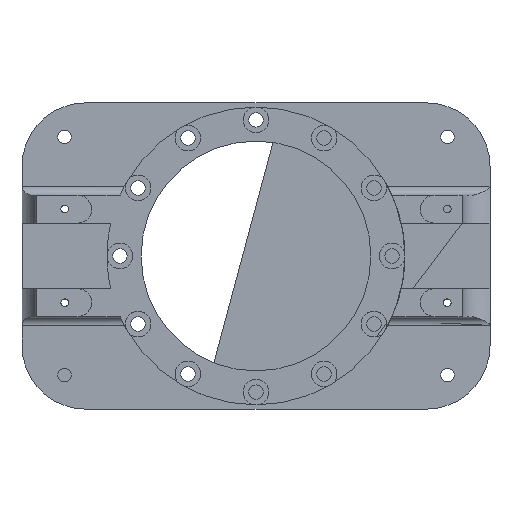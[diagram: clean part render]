
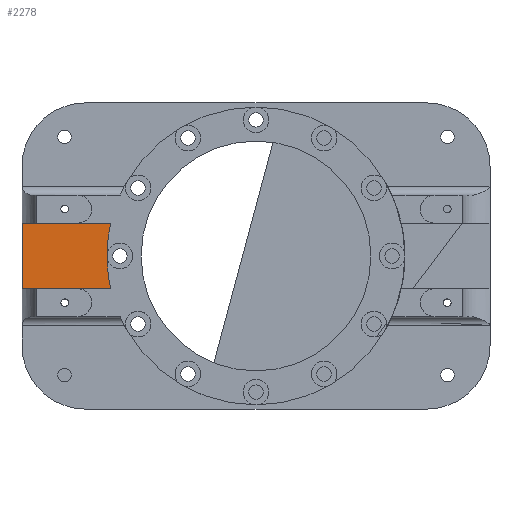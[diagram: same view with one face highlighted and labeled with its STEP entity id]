
A CAD part, top view. The second image highlights one B-rep face of the part: STEP entity #2278.
In plain terms, the highlighted planar face has unit normal (0, 0, 1).
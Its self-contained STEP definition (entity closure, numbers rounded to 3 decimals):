
#81=PLANE('',#2472);
#141=FACE_OUTER_BOUND('',#269,.T.);
#269=EDGE_LOOP('',(#1674,#1675,#1676,#1677,#1678));
#460=CIRCLE('',#2473,35.);
#461=CIRCLE('',#2474,35.);
#617=LINE('',#3624,#786);
#629=LINE('',#3648,#798);
#664=LINE('',#3866,#833);
#786=VECTOR('',#2833,10.);
#798=VECTOR('',#2851,10.);
#833=VECTOR('',#2980,10.);
#921=VERTEX_POINT('',#3466);
#988=VERTEX_POINT('',#3621);
#989=VERTEX_POINT('',#3623);
#997=VERTEX_POINT('',#3645);
#998=VERTEX_POINT('',#3647);
#1196=EDGE_CURVE('',#989,#988,#617,.T.);
#1208=EDGE_CURVE('',#998,#997,#629,.T.);
#1282=EDGE_CURVE('',#998,#988,#664,.T.);
#1283=EDGE_CURVE('',#921,#997,#460,.T.);
#1284=EDGE_CURVE('',#989,#921,#461,.T.);
#1674=ORIENTED_EDGE('',*,*,#1196,.T.);
#1675=ORIENTED_EDGE('',*,*,#1282,.F.);
#1676=ORIENTED_EDGE('',*,*,#1208,.T.);
#1677=ORIENTED_EDGE('',*,*,#1283,.F.);
#1678=ORIENTED_EDGE('',*,*,#1284,.F.);
#2278=ADVANCED_FACE('',(#141),#81,.T.);
#2472=AXIS2_PLACEMENT_3D('',#3865,#2978,#2979);
#2473=AXIS2_PLACEMENT_3D('',#3867,#2981,#2982);
#2474=AXIS2_PLACEMENT_3D('',#3868,#2983,#2984);
#2833=DIRECTION('',(-1.,0.,0.));
#2851=DIRECTION('',(1.,0.,0.));
#2978=DIRECTION('center_axis',(0.,0.,1.));
#2979=DIRECTION('ref_axis',(-1.,0.,0.));
#2980=DIRECTION('',(0.,1.,0.));
#2981=DIRECTION('center_axis',(0.,0.,1.));
#2982=DIRECTION('ref_axis',(-1.,0.,0.));
#2983=DIRECTION('center_axis',(0.,0.,1.));
#2984=DIRECTION('ref_axis',(-1.,0.,0.));
#3466=CARTESIAN_POINT('',(-35.,0.,3.5));
#3621=CARTESIAN_POINT('',(-55.,7.7,3.5));
#3623=CARTESIAN_POINT('',(-34.142,7.7,3.5));
#3624=CARTESIAN_POINT('',(-25.774,7.7,3.5));
#3645=CARTESIAN_POINT('',(-34.142,-7.7,3.5));
#3647=CARTESIAN_POINT('',(-55.,-7.7,3.5));
#3648=CARTESIAN_POINT('',(-17.071,-7.7,3.5));
#3865=CARTESIAN_POINT('Origin',(0.,0.,3.5));
#3866=CARTESIAN_POINT('',(-55.,10.5,3.5));
#3867=CARTESIAN_POINT('Origin',(0.,0.,3.5));
#3868=CARTESIAN_POINT('Origin',(0.,0.,3.5));
